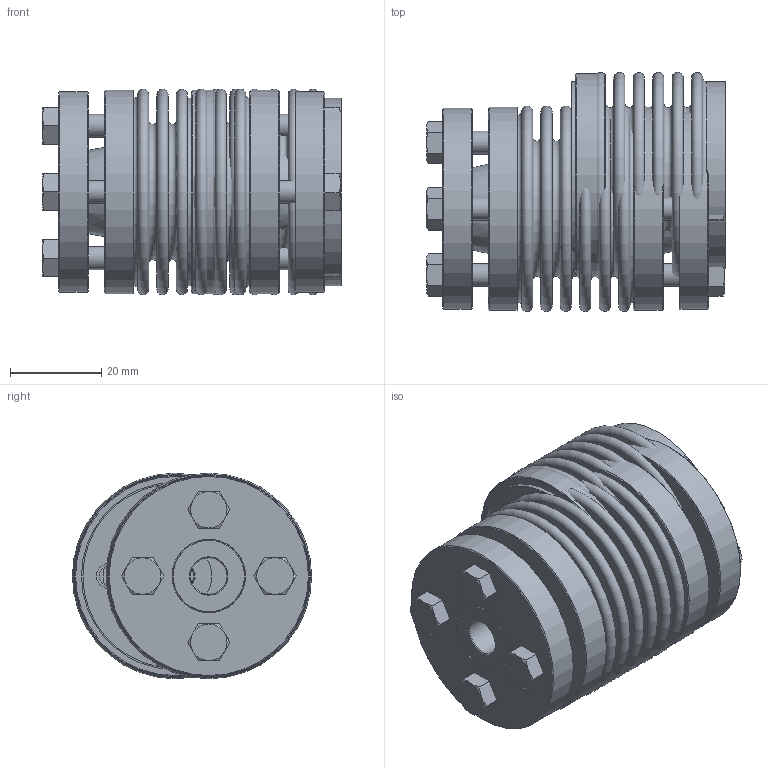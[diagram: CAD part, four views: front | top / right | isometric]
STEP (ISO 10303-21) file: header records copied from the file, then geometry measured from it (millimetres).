
FILE_DESCRIPTION( ( 'Unknown' ), '1' );
FILE_NAME( 'C:/Dokumente und Einstellungen/Sven/Desktop/homepage/cad - homepage/KB6/KB6-18-65.stp', 'Unknown', ( 'Unknown' ), ( 'Unknown' ), 'XStep 1.0', 'Unknown', ' ' );
FILE_SCHEMA( ( 'automotive_design' ) );
Length unit declared in the file: millimetre
Products named in the file (5): Assem1; DR18_Standard; BK18_Standard; BA18_Standard; Hex Screw GradeC_DIN_ISO 4018 - M5 x 12-NN
Bounding box: 65.43 x 52.37 x 45 mm (x, y, z)
Volume: 68819.7 mm3; surface area: 80184.4 mm2
Topology: 17 solids, 17 shells, 335 faces, 663 edges, 418 vertices
Faces by surface type: plane 144, cone 90, cylinder 53, torus 48
Full cylindrical faces by diameter (mm): 4.2 x12, 5 x9, 5.5 x12, 8 x3, 19.526 x3, 40.4 x4, 41 x4, 44 x3, 44.5 x3
Entity records: 2396 total; most frequent: DIRECTION 420, CARTESIAN_POINT 371, ORIENTED_EDGE 238, AXIS2_PLACEMENT_3D 204, EDGE_LOOP 192, FACE_OUTER_BOUND 136, EDGE_CURVE 119, VERTEX_POINT 107
